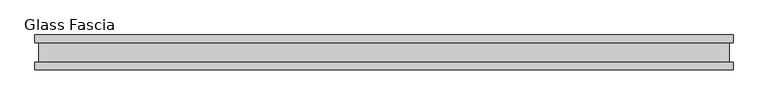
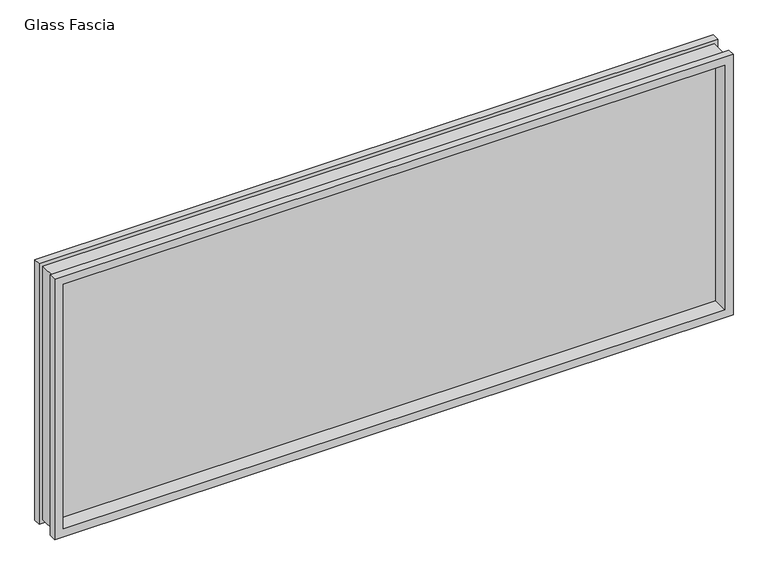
"""IFC4 building model written with IfcOpenShell, lengths in millimetres: proxy geometry, Panel-Fascia-Teknion-Altos-Glass : Glass Fascia."""

from ifc_helpers import new_model, si_unit, frame, origin, place, context, project, spatial, polyline, outline, extrude, faceted_brep, source, transform, mapped, element, save


def glass_fascia_3dd16702(model_context):
    return source(origin(), model_context, "Body", "SolidModel", [
        faceted_brep([(984.4096781, -5.0827449, 799.4805243), (984.4096781, 5.0827449, 799.4805243), (984.4096781, 5.0827449, 17.6374757), (984.4096781, -5.0827449, 17.6374757), (998.8721539, -28.8801202, 813.943), (998.8721539, -50.0558594, 813.943), (998.8721539, -50.0558594, 3.175), (998.8721539, -28.8801202, 3.175), (988.0471539, 28.2698798, 803.1180001), (988.0471539, -28.8801202, 803.1180001), (988.0471539, -28.8801202, 13.9999999), (988.0471539, 28.2698798, 13.9999999), (998.8721539, 50.0558594, 813.943), (998.8721539, 28.2698798, 813.943), (998.8721539, 28.2698798, 3.175), (998.8721539, 50.0558594, 3.175), (-984.4096781, 5.0827449, 17.6374757), (-984.4096781, -5.0827449, 17.6374757), (-998.8721539, -50.0558594, 3.175), (-998.8721539, -28.8801202, 3.175), (-988.0471539, -28.8801202, 13.9999999), (-988.0471539, 28.2698798, 13.9999999), (-998.8721539, 28.2698798, 3.175), (-998.8721539, 50.0558594, 3.175), (-984.4096781, 5.0827449, 799.4805243), (-984.4096781, -5.0827449, 799.4805243), (-998.8721539, -50.0558594, 813.943), (-998.8721539, -28.8801202, 813.943), (-988.0471539, -28.8801202, 803.1180001), (-988.0471539, 28.2698798, 803.1180001), (-998.8721539, 28.2698798, 813.943), (-998.8721539, 50.0558594, 813.943), (973.919487, 50.0558594, 788.9903332), (-973.919487, 50.0558594, 788.9903332), (-973.919487, 50.0558594, 28.1276668), (973.919487, 50.0558594, 28.1276668), (973.919487, 5.0827449, 28.1276668), (-973.919487, 5.0827449, 28.1276668), (-973.919487, 5.0827449, 788.9903332), (973.919487, 5.0827449, 788.9903332), (973.919487, -5.0827449, 788.9903332), (-973.919487, -5.0827449, 788.9903332), (-973.919487, -5.0827449, 28.1276668), (973.919487, -5.0827449, 28.1276668), (973.919487, -50.0558594, 28.1276668), (-973.919487, -50.0558594, 28.1276668), (-973.919487, -50.0558594, 788.9903332), (973.919487, -50.0558594, 788.9903332)], [[[0, 1, 2, 3]], [[4, 5, 6, 7]], [[8, 9, 10, 11]], [[12, 13, 14, 15]], [[3, 2, 16, 17]], [[7, 6, 18, 19]], [[11, 10, 20, 21]], [[15, 14, 22, 23]], [[17, 16, 24, 25]], [[19, 18, 26, 27]], [[21, 20, 28, 29]], [[23, 22, 30, 31]], [[15, 23, 31, 12], [32, 33, 34, 35]], [[1, 24, 16, 2], [36, 37, 38, 39]], [[25, 24, 1, 0]], [[3, 17, 25, 0], [40, 41, 42, 43]], [[5, 26, 18, 6], [44, 45, 46, 47]], [[27, 26, 5, 4]], [[7, 19, 27, 4], [9, 28, 20, 10]], [[29, 28, 9, 8]], [[13, 30, 22, 14], [11, 21, 29, 8]], [[31, 30, 13, 12]], [[39, 32, 35, 36]], [[47, 40, 43, 44]], [[36, 35, 34, 37]], [[44, 43, 42, 45]], [[37, 34, 33, 38]], [[45, 42, 41, 46]], [[38, 33, 32, 39]], [[46, 41, 40, 47]]]),
        extrude(outline(polyline([(984.4096781, 2.9765625), (984.4096781, -2.9765625), (-984.4096781, -2.9765625), (-984.4096781, 2.9765625), (984.4096781, 2.9765625)])), frame((0.0, 0.0, 17.6374757), z_axis=(0.0, 0.0, 1.0), x_axis=(1.0, 0.0, 0.0)), (0.0, 0.0, 1.0), 781.8430485),
    ])


if __name__ == "__main__":
    model = new_model("IFC4")
    model_context = context("Model", 3, world=origin())
    ifc_project = project(units=[si_unit("LENGTHUNIT", "METRE", prefix="MILLI")], contexts=[model_context])
    site = spatial("IfcSite", under=ifc_project)
    building = spatial("IfcBuilding", under=site)
    placement = place(None, origin())
    glass_fascia_shape = glass_fascia_3dd16702(model_context)
    element("IfcBuildingElementProxy", 1, Name="Panel-Fascia-Teknion-Altos-Glass : Glass Fascia", ObjectType="Panel-Fascia-Teknion-Altos-Glass : Glass Fascia", at=placement, inside=building, context=model_context, shape_type="MappedRepresentation", body=[
        mapped(glass_fascia_shape, transform((0.0, 0.0, 0.0), x_axis=(1.0, 0.0, 0.0), y_axis=(0.0, 1.0, 0.0), z_axis=(0.0, 0.0, 1.0))),
    ])
    save(model, "model.ifc")
